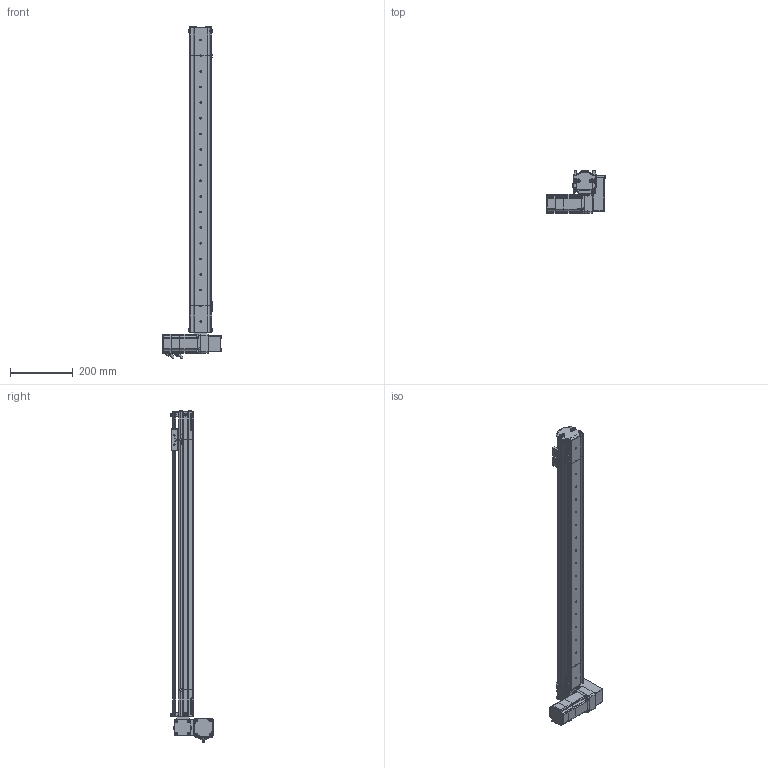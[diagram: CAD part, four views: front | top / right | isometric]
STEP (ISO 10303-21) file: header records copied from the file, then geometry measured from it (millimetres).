
FILE_DESCRIPTION (( 'STEP AP214' ), '1' );
FILE_NAME ('S07 TBN LU S800.STEP', '2010-06-29T11:40:18', ( 'Conseil Régional Haute-Normandie' ), ( 'Conseil Régional Haute-Normandie' ), 'SwSTEP 2.0', 'SolidWorks 2010', '' );
FILE_SCHEMA (( 'AUTOMOTIVE_DESIGN' ));
Length unit declared in the file: millimetre
Products named in the file (41): S07 LU(146)_Default; Couroie  course 800_Default; Course C L800_Default; couvercle S07 course 800 ; Corp S07 course 800_Default; Poulie_Default; vis M5 L5_Default; cache t皻e_Default; Poulie head_Default; renvoi LU_Default; Plaque racord_Default; Couroie t皻e_Default; Pièce5^S07 LU(146); P2 90A_Default; P1_Default; GMB 60 90 310_Default; Axe 60BLDC_Default; P4_Default; P3 90A_Default; VisM3_Default; Conecteur2 60BLDC_Default; Conecteur 60BLDC_Default; S07 TB tail (78)_Default; Vis M5 L16-2_Default; Cvis M5 L30_Default; couvercle tail TB; plaque de bout_Default; corp tail TB_Default; vis M5 L16_Default; S07 TBN LU S800; couvercle moteur S07 TB; cache t皻e axe_Default; T皻e de poulie_Default; plaque de bout LU_Default; corp moteur TB(146)_Default; vis M5 L12_Default; CHariot_Default; Chariot; couroie tail_Default; guide
Assembly tree (80 placements, depth 4):
  Pièce5^S07 LU(146)
  S07 TBN LU S800
    CHariot_Default
      Chariot
      vis M5 L16_Default  x2
      guide
    Course C L800_Default
      Corp S07 course 800_Default
      couvercle S07 course 800 
      Couroie  course 800_Default
    S07 TB tail (78)_Default
      Poulie_Default
        T皻e de poulie_Default
        Poulie_Default
      vis M5 L12_Default  x10
      plaque de bout_Default
      couvercle tail TB
      corp tail TB_Default
      couroie tail_Default
    S07 LU(146)_Default
      vis M5 L5_Default  x6
      Vis M5 L16-2_Default  x8
      Cvis M5 L30_Default  x2
      Couroie t皻e_Default
      cache t皻e_Default  x2
      plaque de bout LU_Default
      renvoi LU_Default
      vis M5 L12_Default  x6
      Poulie head_Default
      corp moteur TB(146)_Default
      Plaque racord_Default
      cache t皻e axe_Default
      GMB 60 90 310_Default
        Axe 60BLDC_Default
        P1_Default
        P2 90A_Default
        VisM3_Default  x12
        P3 90A_Default
        Conecteur 60BLDC_Default
        Conecteur2 60BLDC_Default
        P4_Default
      couvercle moteur S07 TB
Bounding box: 190.2 x 134.7 x 1062 mm (x, y, z)
Volume: 2330877.5 mm3; surface area: 980104.2 mm2
Topology: 102 solids, 102 shells, 3922 faces, 9780 edges, 6317 vertices
Faces by surface type: plane 2230, cylinder 762, bspline 677, cone 125, torus 124, sphere 4
Entity records: 167297 total; most frequent: CARTESIAN_POINT 75213, ORIENTED_EDGE 15472, DIRECTION 12311, EDGE_CURVE 7736, VERTEX_POINT 5105, LINE 5049, VECTOR 5049, AXIS2_PLACEMENT_3D 3631
